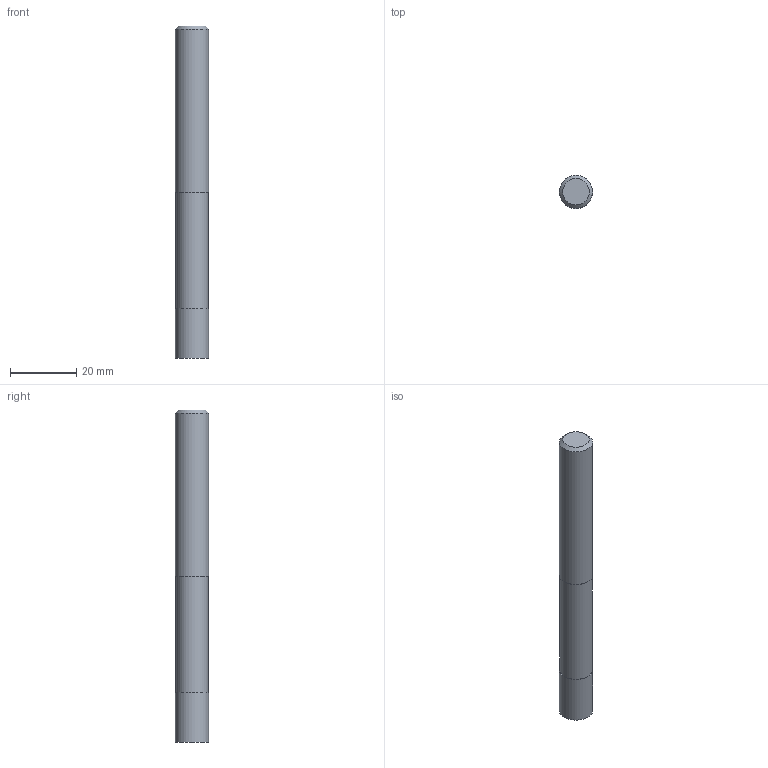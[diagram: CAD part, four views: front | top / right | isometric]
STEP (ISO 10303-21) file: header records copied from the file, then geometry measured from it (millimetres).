
FILE_DESCRIPTION((''),'2;1');
FILE_NAME('C:\Users\nsx150\AppData\Local\Temp\Mastercam 2021\EUJSUNXURU\TEMP.step','2021-04-22T10:29:58',(''),(''),'STEP Write','Mastercam 2021 ... CNC Software, Inc.','');
FILE_SCHEMA(('AUTOMOTIVE_DESIGN'));
Length unit declared in the file: millimetre
Products named in the file (1): None
Bounding box: 10 x 10 x 100 mm (x, y, z)
Volume: 7730.5 mm3; surface area: 3414.1 mm2
Topology: 2 solids, 2 shells, 9 faces, 11 edges, 7 vertices
Faces by surface type: plane 5, cylinder 3, cone 1
Full cylindrical faces by diameter (mm): 9.8 x1, 10 x2
Entity records: 211 total; most frequent: DIRECTION 36, CARTESIAN_POINT 25, AXIS2_PLACEMENT_3D 18, ORIENTED_EDGE 14, EDGE_LOOP 14, STYLED_ITEM 12, ADVANCED_FACE 9, FACE_BOUND 8
